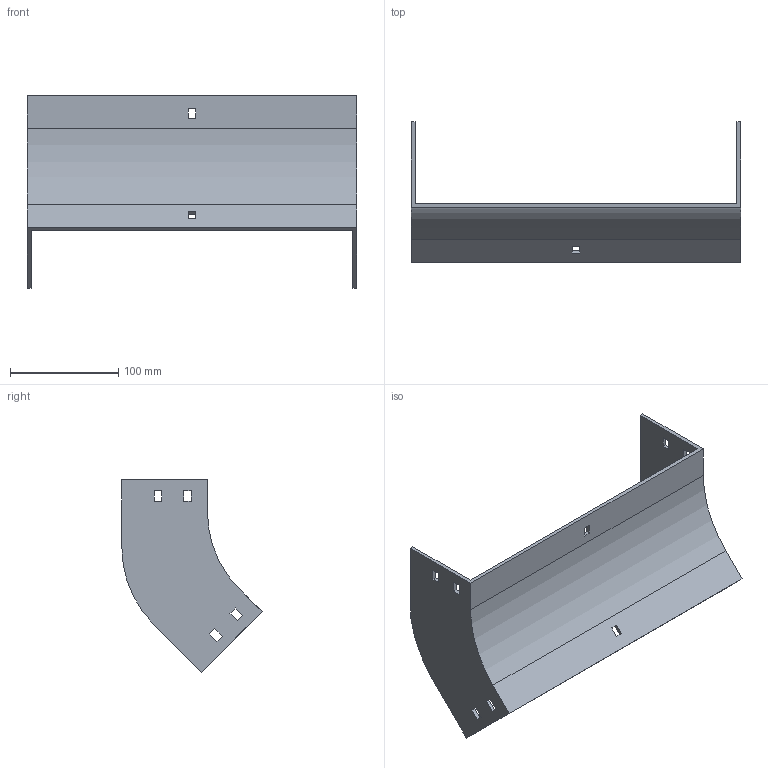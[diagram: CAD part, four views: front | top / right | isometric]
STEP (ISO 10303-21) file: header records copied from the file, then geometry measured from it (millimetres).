
FILE_DESCRIPTION (( 'STEP AP214' ), '1' );
FILE_NAME ('34F1C300.step', '2025-02-21T12:51:28', ( '' ), ( '' ), 'SwSTEP 2.0', 'SolidWorks 2023', '' );
FILE_SCHEMA (( 'AUTOMOTIVE_DESIGN' ));
Length unit declared in the file: millimetre
Products named in the file (1): 34F1C300
Bounding box: 304 x 129.5 x 177.79 mm (x, y, z)
Volume: 240159.1 mm3; surface area: 143006.1 mm2
Topology: 1 solids, 1 shells, 58 faces, 168 edges, 112 vertices
Faces by surface type: plane 54, cylinder 4
Entity records: 1943 total; most frequent: CARTESIAN_POINT 339, ORIENTED_EDGE 336, DIRECTION 294, EDGE_CURVE 168, VECTOR 160, LINE 160, VERTEX_POINT 112, EDGE_LOOP 78
